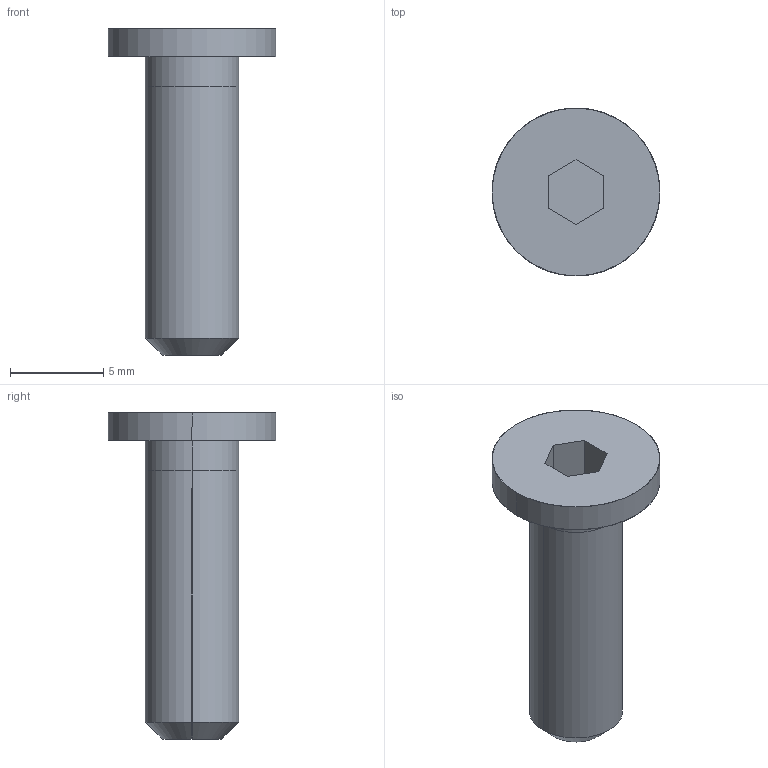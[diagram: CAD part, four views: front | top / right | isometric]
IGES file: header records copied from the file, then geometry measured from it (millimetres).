
Global section: file name: E:\UnigraphicsGraphicData\MISUMI_PRESS-PARTS\IGES\3d_cbss5-16_03482_r00.igs; native system: NX V5.0; preprocessor: UGS NX IGES V5.0; author: MISUMI; date: 20110105.160202; units: millimetre
Bounding box: 9 x 9 x 17.5 mm (x, y, z)
Surface area: 443.2 mm2 (no closed solid volume)
Topology: 0 solids, 0 shells, 18 faces, 100 edges, 100 vertices
Faces by surface type: bspline 18
